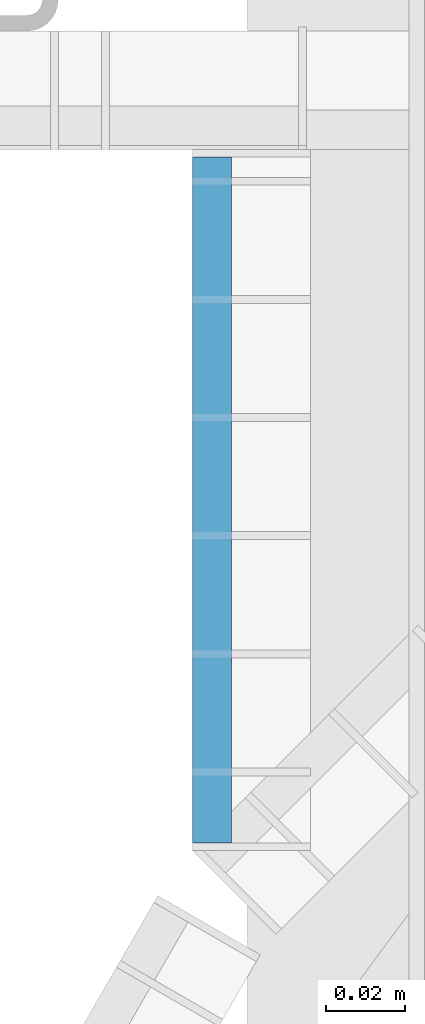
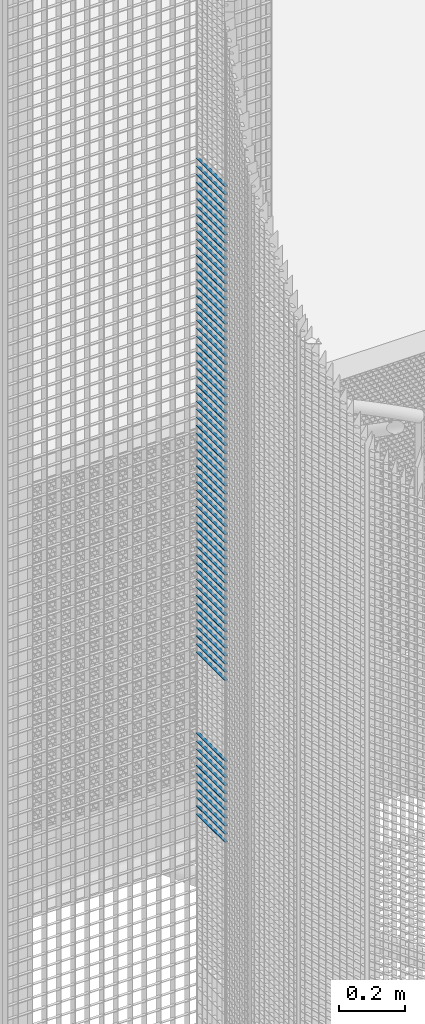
# One storey, part 175 of 1148: 73 beams, 1 element without a shape of its own.
"""IFC2X3 building model written with IfcOpenShell, lengths in millimetres."""

from ifc_helpers import new_model, si_unit, frame, origin_with_axes, origin_2d_with_axis, place, context, subcontext, project, spatial, rectangle, extrude, material, type_object, element, aggregate, save


model = new_model("IFC2X3")

# Units and contexts
model_context = context("Model", 3, precision=1e-05, world=origin_with_axes())
body_context = subcontext(model_context, "Body", "Model", "MODEL_VIEW")
ifc_project = project(units=[si_unit("LENGTHUNIT", "METRE", prefix="MILLI"), si_unit("AREAUNIT", "SQUARE_METRE"), si_unit("VOLUMEUNIT", "CUBIC_METRE"), si_unit("MASSUNIT", "GRAM", prefix="KILO"), si_unit("TIMEUNIT", "SECOND"), si_unit("PLANEANGLEUNIT", "RADIAN"), si_unit("SOLIDANGLEUNIT", "STERADIAN"), si_unit("THERMODYNAMICTEMPERATUREUNIT", "DEGREE_CELSIUS"), si_unit("LUMINOUSINTENSITYUNIT", "LUMEN")], contexts=[model_context])

# Site, building, storey
site_placement = place(None, origin_with_axes())
site = spatial("IfcSite", under=ifc_project, at=site_placement, Name="Undefined", CompositionType="ELEMENT")
building_placement = place(site_placement, origin_with_axes())
building = spatial("IfcBuilding", under=site, at=building_placement, Name="Undefined", CompositionType="ELEMENT")
storey_placement = place(building_placement, origin_with_axes())
storey = spatial("IfcBuildingStorey", under=building, at=storey_placement, Name="Undefined", CompositionType="ELEMENT", Elevation=0.0)

# Assembly, beams
assembly_placement = place(storey_placement, origin_with_axes())
assembly = element("IfcElementAssembly", 1, at=assembly_placement, inside=storey, Name="BORDURE", AssemblyPlace="NOTDEFINED", PredefinedType="NOTDEFINED")
ifc_material = material(Name="STEEL/S235JR")
beam_type = type_object("IfcBeamType", Name="PL2*10", PredefinedType="NOTDEFINED")
beam_1_placement = place(assembly_placement, frame((-884.882567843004, 867.997017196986, 8970.0), z_axis=(-1.0, 0.0, 0.0), x_axis=(0.0, -1.0, 0.0)))
beam_1 = element("IfcBeam", 2, at=beam_1_placement, type_object=beam_type, material=ifc_material, Name="ENTRETOISE", context=body_context, shape_type="SweptSolid", body=[
    extrude(rectangle(XDim=2.0, YDim=10.0, at=origin_2d_with_axis()), frame((174.109999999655, 0.0, 0.0), z_axis=(-1.0, 0.0, 0.0), x_axis=(0.0, -1.0, 0.0)), (0.0, 0.0, 1.0), 174.11),
])
beam_2_placement = place(assembly_placement, frame((-884.882567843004, 867.997017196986, 8940.0), z_axis=(-1.0, 0.0, 0.0), x_axis=(0.0, -1.0, 0.0)))
beam_2 = element("IfcBeam", 3, at=beam_2_placement, type_object=beam_type, material=ifc_material, Name="ENTRETOISE", context=body_context, shape_type="SweptSolid", body=[
    extrude(rectangle(XDim=2.0, YDim=10.0, at=origin_2d_with_axis()), frame((174.109999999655, 0.0, 0.0), z_axis=(-1.0, 0.0, 0.0), x_axis=(0.0, -1.0, 0.0)), (0.0, 0.0, 1.0), 174.11),
])
beam_3_placement = place(assembly_placement, frame((-884.882567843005, 867.997017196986, 8910.0), z_axis=(-1.0, 0.0, 0.0), x_axis=(0.0, -1.0, 0.0)))
beam_3 = element("IfcBeam", 4, at=beam_3_placement, type_object=beam_type, material=ifc_material, Name="ENTRETOISE", context=body_context, shape_type="SweptSolid", body=[
    extrude(rectangle(XDim=2.0, YDim=10.0, at=origin_2d_with_axis()), frame((174.109999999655, 0.0, 0.0), z_axis=(-1.0, 0.0, 0.0), x_axis=(0.0, -1.0, 0.0)), (0.0, 0.0, 1.0), 174.11),
])
beam_4_placement = place(assembly_placement, frame((-884.882567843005, 867.997017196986, 8880.0), z_axis=(-1.0, 0.0, 0.0), x_axis=(0.0, -1.0, 0.0)))
beam_4 = element("IfcBeam", 5, at=beam_4_placement, type_object=beam_type, material=ifc_material, Name="ENTRETOISE", context=body_context, shape_type="SweptSolid", body=[
    extrude(rectangle(XDim=2.0, YDim=10.0, at=origin_2d_with_axis()), frame((174.109999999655, 0.0, 0.0), z_axis=(-1.0, 0.0, 0.0), x_axis=(0.0, -1.0, 0.0)), (0.0, 0.0, 1.0), 174.11),
])
beam_5_placement = place(assembly_placement, frame((-884.882567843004, 867.997017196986, 8850.0), z_axis=(-1.0, 0.0, 0.0), x_axis=(0.0, -1.0, 0.0)))
beam_5 = element("IfcBeam", 6, at=beam_5_placement, type_object=beam_type, material=ifc_material, Name="ENTRETOISE", context=body_context, shape_type="SweptSolid", body=[
    extrude(rectangle(XDim=2.0, YDim=10.0, at=origin_2d_with_axis()), frame((174.109999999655, 0.0, 0.0), z_axis=(-1.0, 0.0, 0.0), x_axis=(0.0, -1.0, 0.0)), (0.0, 0.0, 1.0), 174.11),
])
beam_6_placement = place(assembly_placement, frame((-884.882567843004, 867.997017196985, 8820.0), z_axis=(-1.0, 0.0, 0.0), x_axis=(0.0, -1.0, 0.0)))
beam_6 = element("IfcBeam", 7, at=beam_6_placement, type_object=beam_type, material=ifc_material, Name="ENTRETOISE", context=body_context, shape_type="SweptSolid", body=[
    extrude(rectangle(XDim=2.0, YDim=10.0, at=origin_2d_with_axis()), frame((174.109999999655, 0.0, 0.0), z_axis=(-1.0, 0.0, 0.0), x_axis=(0.0, -1.0, 0.0)), (0.0, 0.0, 1.0), 174.11),
])
beam_7_placement = place(assembly_placement, frame((-884.882567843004, 867.997017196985, 8790.0), z_axis=(-1.0, 0.0, 0.0), x_axis=(0.0, -1.0, 0.0)))
beam_7 = element("IfcBeam", 8, at=beam_7_placement, type_object=beam_type, material=ifc_material, Name="ENTRETOISE", context=body_context, shape_type="SweptSolid", body=[
    extrude(rectangle(XDim=2.0, YDim=10.0, at=origin_2d_with_axis()), frame((174.109999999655, 0.0, 0.0), z_axis=(-1.0, 0.0, 0.0), x_axis=(0.0, -1.0, 0.0)), (0.0, 0.0, 1.0), 174.11),
])
beam_8_placement = place(assembly_placement, frame((-884.882567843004, 867.997017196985, 8760.0), z_axis=(-1.0, 0.0, 0.0), x_axis=(0.0, -1.0, 0.0)))
beam_8 = element("IfcBeam", 9, at=beam_8_placement, type_object=beam_type, material=ifc_material, Name="ENTRETOISE", context=body_context, shape_type="SweptSolid", body=[
    extrude(rectangle(XDim=2.0, YDim=10.0, at=origin_2d_with_axis()), frame((174.109999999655, 0.0, 0.0), z_axis=(-1.0, 0.0, 0.0), x_axis=(0.0, -1.0, 0.0)), (0.0, 0.0, 1.0), 174.11),
])
beam_9_placement = place(assembly_placement, frame((-884.882567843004, 867.997017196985, 8730.0), z_axis=(-1.0, 0.0, 0.0), x_axis=(0.0, -1.0, 0.0)))
beam_9 = element("IfcBeam", 10, at=beam_9_placement, type_object=beam_type, material=ifc_material, Name="ENTRETOISE", context=body_context, shape_type="SweptSolid", body=[
    extrude(rectangle(XDim=2.0, YDim=10.0, at=origin_2d_with_axis()), frame((174.109999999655, 0.0, 0.0), z_axis=(-1.0, 0.0, 0.0), x_axis=(0.0, -1.0, 0.0)), (0.0, 0.0, 1.0), 174.11),
])
beam_10_placement = place(assembly_placement, frame((-884.882567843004, 867.997017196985, 8700.0), z_axis=(-1.0, 0.0, 0.0), x_axis=(0.0, -1.0, 0.0)))
beam_10 = element("IfcBeam", 11, at=beam_10_placement, type_object=beam_type, material=ifc_material, Name="ENTRETOISE", context=body_context, shape_type="SweptSolid", body=[
    extrude(rectangle(XDim=2.0, YDim=10.0, at=origin_2d_with_axis()), frame((174.109999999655, 0.0, 0.0), z_axis=(-1.0, 0.0, 0.0), x_axis=(0.0, -1.0, 0.0)), (0.0, 0.0, 1.0), 174.11),
])
beam_11_placement = place(assembly_placement, frame((-884.882567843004, 867.997017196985, 8670.0), z_axis=(-1.0, 0.0, 0.0), x_axis=(0.0, -1.0, 0.0)))
beam_11 = element("IfcBeam", 12, at=beam_11_placement, type_object=beam_type, material=ifc_material, Name="ENTRETOISE", context=body_context, shape_type="SweptSolid", body=[
    extrude(rectangle(XDim=2.0, YDim=10.0, at=origin_2d_with_axis()), frame((174.109999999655, 0.0, 0.0), z_axis=(-1.0, 0.0, 0.0), x_axis=(0.0, -1.0, 0.0)), (0.0, 0.0, 1.0), 174.11),
])
beam_12_placement = place(assembly_placement, frame((-884.882567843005, 867.997017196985, 8640.0), z_axis=(-1.0, 0.0, 0.0), x_axis=(0.0, -1.0, 0.0)))
beam_12 = element("IfcBeam", 13, at=beam_12_placement, type_object=beam_type, material=ifc_material, Name="ENTRETOISE", context=body_context, shape_type="SweptSolid", body=[
    extrude(rectangle(XDim=2.0, YDim=10.0, at=origin_2d_with_axis()), frame((174.109999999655, 0.0, 0.0), z_axis=(-1.0, 0.0, 0.0), x_axis=(0.0, -1.0, 0.0)), (0.0, 0.0, 1.0), 174.11),
])
beam_13_placement = place(assembly_placement, frame((-884.882567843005, 867.997017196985, 8610.0), z_axis=(-1.0, 0.0, 0.0), x_axis=(0.0, -1.0, 0.0)))
beam_13 = element("IfcBeam", 14, at=beam_13_placement, type_object=beam_type, material=ifc_material, Name="ENTRETOISE", context=body_context, shape_type="SweptSolid", body=[
    extrude(rectangle(XDim=2.0, YDim=10.0, at=origin_2d_with_axis()), frame((174.109999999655, 0.0, 0.0), z_axis=(-1.0, 0.0, 0.0), x_axis=(0.0, -1.0, 0.0)), (0.0, 0.0, 1.0), 174.11),
])
beam_14_placement = place(assembly_placement, frame((-884.882567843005, 867.997017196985, 8580.0), z_axis=(-1.0, 0.0, 0.0), x_axis=(0.0, -1.0, 0.0)))
beam_14 = element("IfcBeam", 15, at=beam_14_placement, type_object=beam_type, material=ifc_material, Name="ENTRETOISE", context=body_context, shape_type="SweptSolid", body=[
    extrude(rectangle(XDim=2.0, YDim=10.0, at=origin_2d_with_axis()), frame((174.109999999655, 0.0, 0.0), z_axis=(-1.0, 0.0, 0.0), x_axis=(0.0, -1.0, 0.0)), (0.0, 0.0, 1.0), 174.11),
])
beam_15_placement = place(assembly_placement, frame((-884.882567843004, 867.997017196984, 8550.0), z_axis=(-1.0, 0.0, 0.0), x_axis=(0.0, -1.0, 0.0)))
beam_15 = element("IfcBeam", 16, at=beam_15_placement, type_object=beam_type, material=ifc_material, Name="ENTRETOISE", context=body_context, shape_type="SweptSolid", body=[
    extrude(rectangle(XDim=2.0, YDim=10.0, at=origin_2d_with_axis()), frame((174.109999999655, 0.0, 0.0), z_axis=(-1.0, 0.0, 0.0), x_axis=(0.0, -1.0, 0.0)), (0.0, 0.0, 1.0), 174.11),
])
beam_16_placement = place(assembly_placement, frame((-884.882567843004, 867.997017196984, 8520.0), z_axis=(-1.0, 0.0, 0.0), x_axis=(0.0, -1.0, 0.0)))
beam_16 = element("IfcBeam", 17, at=beam_16_placement, type_object=beam_type, material=ifc_material, Name="ENTRETOISE", context=body_context, shape_type="SweptSolid", body=[
    extrude(rectangle(XDim=2.0, YDim=10.0, at=origin_2d_with_axis()), frame((174.109999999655, 0.0, 0.0), z_axis=(-1.0, 0.0, 0.0), x_axis=(0.0, -1.0, 0.0)), (0.0, 0.0, 1.0), 174.11),
])
beam_17_placement = place(assembly_placement, frame((-884.882567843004, 867.997017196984, 8490.0), z_axis=(-1.0, 0.0, 0.0), x_axis=(0.0, -1.0, 0.0)))
beam_17 = element("IfcBeam", 18, at=beam_17_placement, type_object=beam_type, material=ifc_material, Name="ENTRETOISE", context=body_context, shape_type="SweptSolid", body=[
    extrude(rectangle(XDim=2.0, YDim=10.0, at=origin_2d_with_axis()), frame((174.109999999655, 0.0, 0.0), z_axis=(-1.0, 0.0, 0.0), x_axis=(0.0, -1.0, 0.0)), (0.0, 0.0, 1.0), 174.11),
])
beam_18_placement = place(assembly_placement, frame((-884.882567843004, 867.997017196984, 8460.0), z_axis=(-1.0, 0.0, 0.0), x_axis=(0.0, -1.0, 0.0)))
beam_18 = element("IfcBeam", 19, at=beam_18_placement, type_object=beam_type, material=ifc_material, Name="ENTRETOISE", context=body_context, shape_type="SweptSolid", body=[
    extrude(rectangle(XDim=2.0, YDim=10.0, at=origin_2d_with_axis()), frame((174.109999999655, 0.0, 0.0), z_axis=(-1.0, 0.0, 0.0), x_axis=(0.0, -1.0, 0.0)), (0.0, 0.0, 1.0), 174.11),
])
beam_19_placement = place(assembly_placement, frame((-884.882567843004, 867.997017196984, 8430.0), z_axis=(-1.0, 0.0, 0.0), x_axis=(0.0, -1.0, 0.0)))
beam_19 = element("IfcBeam", 20, at=beam_19_placement, type_object=beam_type, material=ifc_material, Name="ENTRETOISE", context=body_context, shape_type="SweptSolid", body=[
    extrude(rectangle(XDim=2.0, YDim=10.0, at=origin_2d_with_axis()), frame((174.109999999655, 0.0, 0.0), z_axis=(-1.0, 0.0, 0.0), x_axis=(0.0, -1.0, 0.0)), (0.0, 0.0, 1.0), 174.11),
])
beam_20_placement = place(assembly_placement, frame((-884.882567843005, 867.997017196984, 8400.0), z_axis=(-1.0, 0.0, 0.0), x_axis=(0.0, -1.0, 0.0)))
beam_20 = element("IfcBeam", 21, at=beam_20_placement, type_object=beam_type, material=ifc_material, Name="ENTRETOISE", context=body_context, shape_type="SweptSolid", body=[
    extrude(rectangle(XDim=2.0, YDim=10.0, at=origin_2d_with_axis()), frame((174.109999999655, 0.0, 0.0), z_axis=(-1.0, 0.0, 0.0), x_axis=(0.0, -1.0, 0.0)), (0.0, 0.0, 1.0), 174.11),
])
beam_21_placement = place(assembly_placement, frame((-884.882567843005, 867.997017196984, 8370.0), z_axis=(-1.0, 0.0, 0.0), x_axis=(0.0, -1.0, 0.0)))
beam_21 = element("IfcBeam", 22, at=beam_21_placement, type_object=beam_type, material=ifc_material, Name="ENTRETOISE", context=body_context, shape_type="SweptSolid", body=[
    extrude(rectangle(XDim=2.0, YDim=10.0, at=origin_2d_with_axis()), frame((174.109999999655, 0.0, 0.0), z_axis=(-1.0, 0.0, 0.0), x_axis=(0.0, -1.0, 0.0)), (0.0, 0.0, 1.0), 174.11),
])
beam_22_placement = place(assembly_placement, frame((-884.882567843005, 867.997017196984, 8340.0), z_axis=(-1.0, 0.0, 0.0), x_axis=(0.0, -1.0, 0.0)))
beam_22 = element("IfcBeam", 23, at=beam_22_placement, type_object=beam_type, material=ifc_material, Name="ENTRETOISE", context=body_context, shape_type="SweptSolid", body=[
    extrude(rectangle(XDim=2.0, YDim=10.0, at=origin_2d_with_axis()), frame((174.109999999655, 0.0, 0.0), z_axis=(-1.0, 0.0, 0.0), x_axis=(0.0, -1.0, 0.0)), (0.0, 0.0, 1.0), 174.11),
])
beam_23_placement = place(assembly_placement, frame((-884.882567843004, 867.997017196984, 8310.0), z_axis=(-1.0, 0.0, 0.0), x_axis=(0.0, -1.0, 0.0)))
beam_23 = element("IfcBeam", 24, at=beam_23_placement, type_object=beam_type, material=ifc_material, Name="ENTRETOISE", context=body_context, shape_type="SweptSolid", body=[
    extrude(rectangle(XDim=2.0, YDim=10.0, at=origin_2d_with_axis()), frame((174.109999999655, 0.0, 0.0), z_axis=(-1.0, 0.0, 0.0), x_axis=(0.0, -1.0, 0.0)), (0.0, 0.0, 1.0), 174.11),
])
beam_24_placement = place(assembly_placement, frame((-884.882567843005, 867.997017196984, 8280.0), z_axis=(-1.0, 0.0, 0.0), x_axis=(0.0, -1.0, 0.0)))
beam_24 = element("IfcBeam", 25, at=beam_24_placement, type_object=beam_type, material=ifc_material, Name="ENTRETOISE", context=body_context, shape_type="SweptSolid", body=[
    extrude(rectangle(XDim=2.0, YDim=10.0, at=origin_2d_with_axis()), frame((174.109999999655, 0.0, 0.0), z_axis=(-1.0, 0.0, 0.0), x_axis=(0.0, -1.0, 0.0)), (0.0, 0.0, 1.0), 174.11),
])
beam_25_placement = place(assembly_placement, frame((-884.882567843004, 867.997017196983, 8250.0), z_axis=(-1.0, 0.0, 0.0), x_axis=(0.0, -1.0, 0.0)))
beam_25 = element("IfcBeam", 26, at=beam_25_placement, type_object=beam_type, material=ifc_material, Name="ENTRETOISE", context=body_context, shape_type="SweptSolid", body=[
    extrude(rectangle(XDim=2.0, YDim=10.0, at=origin_2d_with_axis()), frame((174.109999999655, 0.0, 0.0), z_axis=(-1.0, 0.0, 0.0), x_axis=(0.0, -1.0, 0.0)), (0.0, 0.0, 1.0), 174.11),
])
beam_26_placement = place(assembly_placement, frame((-884.882567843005, 867.997017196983, 8220.0), z_axis=(-1.0, 0.0, 0.0), x_axis=(0.0, -1.0, 0.0)))
beam_26 = element("IfcBeam", 27, at=beam_26_placement, type_object=beam_type, material=ifc_material, Name="ENTRETOISE", context=body_context, shape_type="SweptSolid", body=[
    extrude(rectangle(XDim=2.0, YDim=10.0, at=origin_2d_with_axis()), frame((174.109999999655, 0.0, 0.0), z_axis=(-1.0, 0.0, 0.0), x_axis=(0.0, -1.0, 0.0)), (0.0, 0.0, 1.0), 174.11),
])
beam_27_placement = place(assembly_placement, frame((-884.882567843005, 867.997017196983, 8190.0), z_axis=(-1.0, 0.0, 0.0), x_axis=(0.0, -1.0, 0.0)))
beam_27 = element("IfcBeam", 28, at=beam_27_placement, type_object=beam_type, material=ifc_material, Name="ENTRETOISE", context=body_context, shape_type="SweptSolid", body=[
    extrude(rectangle(XDim=2.0, YDim=10.0, at=origin_2d_with_axis()), frame((174.109999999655, 0.0, 0.0), z_axis=(-1.0, 0.0, 0.0), x_axis=(0.0, -1.0, 0.0)), (0.0, 0.0, 1.0), 174.11),
])
beam_28_placement = place(assembly_placement, frame((-884.882567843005, 867.997017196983, 8160.0), z_axis=(-1.0, 0.0, 0.0), x_axis=(0.0, -1.0, 0.0)))
beam_28 = element("IfcBeam", 29, at=beam_28_placement, type_object=beam_type, material=ifc_material, Name="ENTRETOISE", context=body_context, shape_type="SweptSolid", body=[
    extrude(rectangle(XDim=2.0, YDim=10.0, at=origin_2d_with_axis()), frame((174.109999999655, 0.0, 0.0), z_axis=(-1.0, 0.0, 0.0), x_axis=(0.0, -1.0, 0.0)), (0.0, 0.0, 1.0), 174.11),
])
beam_29_placement = place(assembly_placement, frame((-884.882567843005, 867.997017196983, 8130.0), z_axis=(-1.0, 0.0, 0.0), x_axis=(0.0, -1.0, 0.0)))
beam_29 = element("IfcBeam", 30, at=beam_29_placement, type_object=beam_type, material=ifc_material, Name="ENTRETOISE", context=body_context, shape_type="SweptSolid", body=[
    extrude(rectangle(XDim=2.0, YDim=10.0, at=origin_2d_with_axis()), frame((174.109999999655, 0.0, 0.0), z_axis=(-1.0, 0.0, 0.0), x_axis=(0.0, -1.0, 0.0)), (0.0, 0.0, 1.0), 174.11),
])
beam_30_placement = place(assembly_placement, frame((-884.882567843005, 867.997017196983, 8100.0), z_axis=(-1.0, 0.0, 0.0), x_axis=(0.0, -1.0, 0.0)))
beam_30 = element("IfcBeam", 31, at=beam_30_placement, type_object=beam_type, material=ifc_material, Name="ENTRETOISE", context=body_context, shape_type="SweptSolid", body=[
    extrude(rectangle(XDim=2.0, YDim=10.0, at=origin_2d_with_axis()), frame((174.109999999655, 0.0, 0.0), z_axis=(-1.0, 0.0, 0.0), x_axis=(0.0, -1.0, 0.0)), (0.0, 0.0, 1.0), 174.11),
])
beam_31_placement = place(assembly_placement, frame((-884.882567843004, 867.997017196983, 8070.0), z_axis=(-1.0, 0.0, 0.0), x_axis=(0.0, -1.0, 0.0)))
beam_31 = element("IfcBeam", 32, at=beam_31_placement, type_object=beam_type, material=ifc_material, Name="ENTRETOISE", context=body_context, shape_type="SweptSolid", body=[
    extrude(rectangle(XDim=2.0, YDim=10.0, at=origin_2d_with_axis()), frame((174.109999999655, 0.0, 0.0), z_axis=(-1.0, 0.0, 0.0), x_axis=(0.0, -1.0, 0.0)), (0.0, 0.0, 1.0), 174.11),
])
beam_32_placement = place(assembly_placement, frame((-884.882567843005, 867.997017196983, 8040.0), z_axis=(-1.0, 0.0, 0.0), x_axis=(0.0, -1.0, 0.0)))
beam_32 = element("IfcBeam", 33, at=beam_32_placement, type_object=beam_type, material=ifc_material, Name="ENTRETOISE", context=body_context, shape_type="SweptSolid", body=[
    extrude(rectangle(XDim=2.0, YDim=10.0, at=origin_2d_with_axis()), frame((174.109999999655, 0.0, 0.0), z_axis=(-1.0, 0.0, 0.0), x_axis=(0.0, -1.0, 0.0)), (0.0, 0.0, 1.0), 174.11),
])
beam_33_placement = place(assembly_placement, frame((-884.882567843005, 867.997017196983, 8010.0), z_axis=(-1.0, 0.0, 0.0), x_axis=(0.0, -1.0, 0.0)))
beam_33 = element("IfcBeam", 34, at=beam_33_placement, type_object=beam_type, material=ifc_material, Name="ENTRETOISE", context=body_context, shape_type="SweptSolid", body=[
    extrude(rectangle(XDim=2.0, YDim=10.0, at=origin_2d_with_axis()), frame((174.109999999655, 0.0, 0.0), z_axis=(-1.0, 0.0, 0.0), x_axis=(0.0, -1.0, 0.0)), (0.0, 0.0, 1.0), 174.11),
])
beam_34_placement = place(assembly_placement, frame((-884.882567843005, 867.997017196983, 7980.0), z_axis=(-1.0, 0.0, 0.0), x_axis=(0.0, -1.0, 0.0)))
beam_34 = element("IfcBeam", 35, at=beam_34_placement, type_object=beam_type, material=ifc_material, Name="ENTRETOISE", context=body_context, shape_type="SweptSolid", body=[
    extrude(rectangle(XDim=2.0, YDim=10.0, at=origin_2d_with_axis()), frame((174.109999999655, 0.0, 0.0), z_axis=(-1.0, 0.0, 0.0), x_axis=(0.0, -1.0, 0.0)), (0.0, 0.0, 1.0), 174.11),
])
beam_35_placement = place(assembly_placement, frame((-884.882567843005, 867.997017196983, 7950.0), z_axis=(-1.0, 0.0, 0.0), x_axis=(0.0, -1.0, 0.0)))
beam_35 = element("IfcBeam", 36, at=beam_35_placement, type_object=beam_type, material=ifc_material, Name="ENTRETOISE", context=body_context, shape_type="SweptSolid", body=[
    extrude(rectangle(XDim=2.0, YDim=10.0, at=origin_2d_with_axis()), frame((174.109999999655, 0.0, 0.0), z_axis=(-1.0, 0.0, 0.0), x_axis=(0.0, -1.0, 0.0)), (0.0, 0.0, 1.0), 174.11),
])
beam_36_placement = place(assembly_placement, frame((-884.882567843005, 867.997017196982, 7920.0), z_axis=(-1.0, 0.0, 0.0), x_axis=(0.0, -1.0, 0.0)))
beam_36 = element("IfcBeam", 37, at=beam_36_placement, type_object=beam_type, material=ifc_material, Name="ENTRETOISE", context=body_context, shape_type="SweptSolid", body=[
    extrude(rectangle(XDim=2.0, YDim=10.0, at=origin_2d_with_axis()), frame((174.109999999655, 0.0, 0.0), z_axis=(-1.0, 0.0, 0.0), x_axis=(0.0, -1.0, 0.0)), (0.0, 0.0, 1.0), 174.11),
])
beam_37_placement = place(assembly_placement, frame((-884.882567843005, 867.997017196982, 7890.0), z_axis=(-1.0, 0.0, 0.0), x_axis=(0.0, -1.0, 0.0)))
beam_37 = element("IfcBeam", 38, at=beam_37_placement, type_object=beam_type, material=ifc_material, Name="ENTRETOISE", context=body_context, shape_type="SweptSolid", body=[
    extrude(rectangle(XDim=2.0, YDim=10.0, at=origin_2d_with_axis()), frame((174.109999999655, 0.0, 0.0), z_axis=(-1.0, 0.0, 0.0), x_axis=(0.0, -1.0, 0.0)), (0.0, 0.0, 1.0), 174.11),
])
beam_38_placement = place(assembly_placement, frame((-884.882567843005, 867.997017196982, 7860.0), z_axis=(-1.0, 0.0, 0.0), x_axis=(0.0, -1.0, 0.0)))
beam_38 = element("IfcBeam", 39, at=beam_38_placement, type_object=beam_type, material=ifc_material, Name="ENTRETOISE", context=body_context, shape_type="SweptSolid", body=[
    extrude(rectangle(XDim=2.0, YDim=10.0, at=origin_2d_with_axis()), frame((174.109999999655, 0.0, 0.0), z_axis=(-1.0, 0.0, 0.0), x_axis=(0.0, -1.0, 0.0)), (0.0, 0.0, 1.0), 174.11),
])
beam_39_placement = place(assembly_placement, frame((-884.882567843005, 867.997017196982, 7830.0), z_axis=(-1.0, 0.0, 0.0), x_axis=(0.0, -1.0, 0.0)))
beam_39 = element("IfcBeam", 40, at=beam_39_placement, type_object=beam_type, material=ifc_material, Name="ENTRETOISE", context=body_context, shape_type="SweptSolid", body=[
    extrude(rectangle(XDim=2.0, YDim=10.0, at=origin_2d_with_axis()), frame((174.109999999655, 0.0, 0.0), z_axis=(-1.0, 0.0, 0.0), x_axis=(0.0, -1.0, 0.0)), (0.0, 0.0, 1.0), 174.11),
])
beam_40_placement = place(assembly_placement, frame((-884.882567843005, 867.997017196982, 7800.0), z_axis=(-1.0, 0.0, 0.0), x_axis=(0.0, -1.0, 0.0)))
beam_40 = element("IfcBeam", 41, at=beam_40_placement, type_object=beam_type, material=ifc_material, Name="ENTRETOISE", context=body_context, shape_type="SweptSolid", body=[
    extrude(rectangle(XDim=2.0, YDim=10.0, at=origin_2d_with_axis()), frame((174.109999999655, 0.0, 0.0), z_axis=(-1.0, 0.0, 0.0), x_axis=(0.0, -1.0, 0.0)), (0.0, 0.0, 1.0), 174.11),
])
beam_41_placement = place(assembly_placement, frame((-884.882567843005, 867.997017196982, 7770.0), z_axis=(-1.0, 0.0, 0.0), x_axis=(0.0, -1.0, 0.0)))
beam_41 = element("IfcBeam", 42, at=beam_41_placement, type_object=beam_type, material=ifc_material, Name="ENTRETOISE", context=body_context, shape_type="SweptSolid", body=[
    extrude(rectangle(XDim=2.0, YDim=10.0, at=origin_2d_with_axis()), frame((174.109999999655, 0.0, 0.0), z_axis=(-1.0, 0.0, 0.0), x_axis=(0.0, -1.0, 0.0)), (0.0, 0.0, 1.0), 174.11),
])
beam_42_placement = place(assembly_placement, frame((-884.882567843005, 867.997017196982, 7740.0), z_axis=(-1.0, 0.0, 0.0), x_axis=(0.0, -1.0, 0.0)))
beam_42 = element("IfcBeam", 43, at=beam_42_placement, type_object=beam_type, material=ifc_material, Name="ENTRETOISE", context=body_context, shape_type="SweptSolid", body=[
    extrude(rectangle(XDim=2.0, YDim=10.0, at=origin_2d_with_axis()), frame((174.109999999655, 0.0, 0.0), z_axis=(-1.0, 0.0, 0.0), x_axis=(0.0, -1.0, 0.0)), (0.0, 0.0, 1.0), 174.11),
])
beam_43_placement = place(assembly_placement, frame((-884.882567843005, 867.997017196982, 7710.0), z_axis=(-1.0, 0.0, 0.0), x_axis=(0.0, -1.0, 0.0)))
beam_43 = element("IfcBeam", 44, at=beam_43_placement, type_object=beam_type, material=ifc_material, Name="ENTRETOISE", context=body_context, shape_type="SweptSolid", body=[
    extrude(rectangle(XDim=2.0, YDim=10.0, at=origin_2d_with_axis()), frame((174.109999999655, 0.0, 0.0), z_axis=(-1.0, 0.0, 0.0), x_axis=(0.0, -1.0, 0.0)), (0.0, 0.0, 1.0), 174.11),
])
beam_44_placement = place(assembly_placement, frame((-884.882567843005, 867.997017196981, 7680.0), z_axis=(-1.0, 0.0, 0.0), x_axis=(0.0, -1.0, 0.0)))
beam_44 = element("IfcBeam", 45, at=beam_44_placement, type_object=beam_type, material=ifc_material, Name="ENTRETOISE", context=body_context, shape_type="SweptSolid", body=[
    extrude(rectangle(XDim=2.0, YDim=10.0, at=origin_2d_with_axis()), frame((174.109999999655, 0.0, 0.0), z_axis=(-1.0, 0.0, 0.0), x_axis=(0.0, -1.0, 0.0)), (0.0, 0.0, 1.0), 174.11),
])
beam_45_placement = place(assembly_placement, frame((-884.882567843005, 867.997017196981, 7650.0), z_axis=(-1.0, 0.0, 0.0), x_axis=(0.0, -1.0, 0.0)))
beam_45 = element("IfcBeam", 46, at=beam_45_placement, type_object=beam_type, material=ifc_material, Name="ENTRETOISE", context=body_context, shape_type="SweptSolid", body=[
    extrude(rectangle(XDim=2.0, YDim=10.0, at=origin_2d_with_axis()), frame((174.109999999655, 0.0, 0.0), z_axis=(-1.0, 0.0, 0.0), x_axis=(0.0, -1.0, 0.0)), (0.0, 0.0, 1.0), 174.11),
])
beam_46_placement = place(assembly_placement, frame((-884.882567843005, 867.997017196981, 7620.0), z_axis=(-1.0, 0.0, 0.0), x_axis=(0.0, -1.0, 0.0)))
beam_46 = element("IfcBeam", 47, at=beam_46_placement, type_object=beam_type, material=ifc_material, Name="ENTRETOISE", context=body_context, shape_type="SweptSolid", body=[
    extrude(rectangle(XDim=2.0, YDim=10.0, at=origin_2d_with_axis()), frame((174.109999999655, 0.0, 0.0), z_axis=(-1.0, 0.0, 0.0), x_axis=(0.0, -1.0, 0.0)), (0.0, 0.0, 1.0), 174.11),
])
beam_47_placement = place(assembly_placement, frame((-884.882567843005, 867.997017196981, 7590.0), z_axis=(-1.0, 0.0, 0.0), x_axis=(0.0, -1.0, 0.0)))
beam_47 = element("IfcBeam", 48, at=beam_47_placement, type_object=beam_type, material=ifc_material, Name="ENTRETOISE", context=body_context, shape_type="SweptSolid", body=[
    extrude(rectangle(XDim=2.0, YDim=10.0, at=origin_2d_with_axis()), frame((174.109999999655, 0.0, 0.0), z_axis=(-1.0, 0.0, 0.0), x_axis=(0.0, -1.0, 0.0)), (0.0, 0.0, 1.0), 174.11),
])
beam_48_placement = place(assembly_placement, frame((-884.882567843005, 867.997017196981, 7560.0), z_axis=(-1.0, 0.0, 0.0), x_axis=(0.0, -1.0, 0.0)))
beam_48 = element("IfcBeam", 49, at=beam_48_placement, type_object=beam_type, material=ifc_material, Name="ENTRETOISE", context=body_context, shape_type="SweptSolid", body=[
    extrude(rectangle(XDim=2.0, YDim=10.0, at=origin_2d_with_axis()), frame((174.109999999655, 0.0, 0.0), z_axis=(-1.0, 0.0, 0.0), x_axis=(0.0, -1.0, 0.0)), (0.0, 0.0, 1.0), 174.11),
])
beam_49_placement = place(assembly_placement, frame((-884.882567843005, 867.997017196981, 7530.0), z_axis=(-1.0, 0.0, 0.0), x_axis=(0.0, -1.0, 0.0)))
beam_49 = element("IfcBeam", 50, at=beam_49_placement, type_object=beam_type, material=ifc_material, Name="ENTRETOISE", context=body_context, shape_type="SweptSolid", body=[
    extrude(rectangle(XDim=2.0, YDim=10.0, at=origin_2d_with_axis()), frame((174.109999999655, 0.0, 0.0), z_axis=(-1.0, 0.0, 0.0), x_axis=(0.0, -1.0, 0.0)), (0.0, 0.0, 1.0), 174.11),
])
beam_50_placement = place(assembly_placement, frame((-884.882567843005, 867.997017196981, 7500.0), z_axis=(-1.0, 0.0, 0.0), x_axis=(0.0, -1.0, 0.0)))
beam_50 = element("IfcBeam", 51, at=beam_50_placement, type_object=beam_type, material=ifc_material, Name="ENTRETOISE", context=body_context, shape_type="SweptSolid", body=[
    extrude(rectangle(XDim=2.0, YDim=10.0, at=origin_2d_with_axis()), frame((174.109999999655, 0.0, 0.0), z_axis=(-1.0, 0.0, 0.0), x_axis=(0.0, -1.0, 0.0)), (0.0, 0.0, 1.0), 174.11),
])
beam_51_placement = place(assembly_placement, frame((-884.882567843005, 867.997017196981, 7470.0), z_axis=(-1.0, 0.0, 0.0), x_axis=(0.0, -1.0, 0.0)))
beam_51 = element("IfcBeam", 52, at=beam_51_placement, type_object=beam_type, material=ifc_material, Name="ENTRETOISE", context=body_context, shape_type="SweptSolid", body=[
    extrude(rectangle(XDim=2.0, YDim=10.0, at=origin_2d_with_axis()), frame((174.109999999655, 0.0, 0.0), z_axis=(-1.0, 0.0, 0.0), x_axis=(0.0, -1.0, 0.0)), (0.0, 0.0, 1.0), 174.11),
])
beam_52_placement = place(assembly_placement, frame((-884.882567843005, 867.997017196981, 7440.0), z_axis=(-1.0, 0.0, 0.0), x_axis=(0.0, -1.0, 0.0)))
beam_52 = element("IfcBeam", 53, at=beam_52_placement, type_object=beam_type, material=ifc_material, Name="ENTRETOISE", context=body_context, shape_type="SweptSolid", body=[
    extrude(rectangle(XDim=2.0, YDim=10.0, at=origin_2d_with_axis()), frame((174.109999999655, 0.0, 0.0), z_axis=(-1.0, 0.0, 0.0), x_axis=(0.0, -1.0, 0.0)), (0.0, 0.0, 1.0), 174.11),
])
beam_53_placement = place(assembly_placement, frame((-884.882567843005, 867.997017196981, 7410.0), z_axis=(-1.0, 0.0, 0.0), x_axis=(0.0, -1.0, 0.0)))
beam_53 = element("IfcBeam", 54, at=beam_53_placement, type_object=beam_type, material=ifc_material, Name="ENTRETOISE", context=body_context, shape_type="SweptSolid", body=[
    extrude(rectangle(XDim=2.0, YDim=10.0, at=origin_2d_with_axis()), frame((174.109999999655, 0.0, 0.0), z_axis=(-1.0, 0.0, 0.0), x_axis=(0.0, -1.0, 0.0)), (0.0, 0.0, 1.0), 174.11),
])
beam_54_placement = place(assembly_placement, frame((-884.882567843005, 867.99701719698, 7380.0), z_axis=(-1.0, 0.0, 0.0), x_axis=(0.0, -1.0, 0.0)))
beam_54 = element("IfcBeam", 55, at=beam_54_placement, type_object=beam_type, material=ifc_material, Name="ENTRETOISE", context=body_context, shape_type="SweptSolid", body=[
    extrude(rectangle(XDim=2.0, YDim=10.0, at=origin_2d_with_axis()), frame((174.109999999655, 0.0, 0.0), z_axis=(-1.0, 0.0, 0.0), x_axis=(0.0, -1.0, 0.0)), (0.0, 0.0, 1.0), 174.11),
])
beam_55_placement = place(assembly_placement, frame((-884.882567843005, 867.99701719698, 7350.0), z_axis=(-1.0, 0.0, 0.0), x_axis=(0.0, -1.0, 0.0)))
beam_55 = element("IfcBeam", 56, at=beam_55_placement, type_object=beam_type, material=ifc_material, Name="ENTRETOISE", context=body_context, shape_type="SweptSolid", body=[
    extrude(rectangle(XDim=2.0, YDim=10.0, at=origin_2d_with_axis()), frame((174.109999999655, 0.0, 0.0), z_axis=(-1.0, 0.0, 0.0), x_axis=(0.0, -1.0, 0.0)), (0.0, 0.0, 1.0), 174.11),
])
beam_56_placement = place(assembly_placement, frame((-884.882567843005, 867.99701719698, 7320.0), z_axis=(-1.0, 0.0, 0.0), x_axis=(0.0, -1.0, 0.0)))
beam_56 = element("IfcBeam", 57, at=beam_56_placement, type_object=beam_type, material=ifc_material, Name="ENTRETOISE", context=body_context, shape_type="SweptSolid", body=[
    extrude(rectangle(XDim=2.0, YDim=10.0, at=origin_2d_with_axis()), frame((174.109999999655, 0.0, 0.0), z_axis=(-1.0, 0.0, 0.0), x_axis=(0.0, -1.0, 0.0)), (0.0, 0.0, 1.0), 174.11),
])
beam_57_placement = place(assembly_placement, frame((-884.882567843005, 867.99701719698, 7290.0), z_axis=(-1.0, 0.0, 0.0), x_axis=(0.0, -1.0, 0.0)))
beam_57 = element("IfcBeam", 58, at=beam_57_placement, type_object=beam_type, material=ifc_material, Name="ENTRETOISE", context=body_context, shape_type="SweptSolid", body=[
    extrude(rectangle(XDim=2.0, YDim=10.0, at=origin_2d_with_axis()), frame((174.109999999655, 0.0, 0.0), z_axis=(-1.0, 0.0, 0.0), x_axis=(0.0, -1.0, 0.0)), (0.0, 0.0, 1.0), 174.11),
])
beam_58_placement = place(assembly_placement, frame((-884.882567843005, 867.99701719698, 7260.0), z_axis=(-1.0, 0.0, 0.0), x_axis=(0.0, -1.0, 0.0)))
beam_58 = element("IfcBeam", 59, at=beam_58_placement, type_object=beam_type, material=ifc_material, Name="ENTRETOISE", context=body_context, shape_type="SweptSolid", body=[
    extrude(rectangle(XDim=2.0, YDim=10.0, at=origin_2d_with_axis()), frame((174.109999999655, 0.0, 0.0), z_axis=(-1.0, 0.0, 0.0), x_axis=(0.0, -1.0, 0.0)), (0.0, 0.0, 1.0), 174.11),
])
beam_59_placement = place(assembly_placement, frame((-884.882567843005, 867.99701719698, 7230.0), z_axis=(-1.0, 0.0, 0.0), x_axis=(0.0, -1.0, 0.0)))
beam_59 = element("IfcBeam", 60, at=beam_59_placement, type_object=beam_type, material=ifc_material, Name="ENTRETOISE", context=body_context, shape_type="SweptSolid", body=[
    extrude(rectangle(XDim=2.0, YDim=10.0, at=origin_2d_with_axis()), frame((174.109999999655, 0.0, 0.0), z_axis=(-1.0, 0.0, 0.0), x_axis=(0.0, -1.0, 0.0)), (0.0, 0.0, 1.0), 174.11),
])
beam_60_placement = place(assembly_placement, frame((-884.882567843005, 867.99701719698, 7200.0), z_axis=(-1.0, 0.0, 0.0), x_axis=(0.0, -1.0, 0.0)))
beam_60 = element("IfcBeam", 61, at=beam_60_placement, type_object=beam_type, material=ifc_material, Name="ENTRETOISE", context=body_context, shape_type="SweptSolid", body=[
    extrude(rectangle(XDim=2.0, YDim=10.0, at=origin_2d_with_axis()), frame((174.109999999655, 0.0, 0.0), z_axis=(-1.0, 0.0, 0.0), x_axis=(0.0, -1.0, 0.0)), (0.0, 0.0, 1.0), 174.11),
])
beam_61_placement = place(assembly_placement, frame((-884.882567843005, 867.99701719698, 7170.0), z_axis=(-1.0, 0.0, 0.0), x_axis=(0.0, -1.0, 0.0)))
beam_61 = element("IfcBeam", 62, at=beam_61_placement, type_object=beam_type, material=ifc_material, Name="ENTRETOISE", context=body_context, shape_type="SweptSolid", body=[
    extrude(rectangle(XDim=2.0, YDim=10.0, at=origin_2d_with_axis()), frame((174.109999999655, 0.0, 0.0), z_axis=(-1.0, 0.0, 0.0), x_axis=(0.0, -1.0, 0.0)), (0.0, 0.0, 1.0), 174.11),
])
beam_62_placement = place(assembly_placement, frame((-884.882567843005, 867.99701719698, 7140.0), z_axis=(-1.0, 0.0, 0.0), x_axis=(0.0, -1.0, 0.0)))
beam_62 = element("IfcBeam", 63, at=beam_62_placement, type_object=beam_type, material=ifc_material, Name="ENTRETOISE", context=body_context, shape_type="SweptSolid", body=[
    extrude(rectangle(XDim=2.0, YDim=10.0, at=origin_2d_with_axis()), frame((174.109999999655, 0.0, 0.0), z_axis=(-1.0, 0.0, 0.0), x_axis=(0.0, -1.0, 0.0)), (0.0, 0.0, 1.0), 174.11),
])
beam_63_placement = place(assembly_placement, frame((-884.882567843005, 867.997017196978, 6720.0), z_axis=(-1.0, 0.0, 0.0), x_axis=(0.0, -1.0, 0.0)))
beam_63 = element("IfcBeam", 64, at=beam_63_placement, type_object=beam_type, material=ifc_material, Name="ENTRETOISE", context=body_context, shape_type="SweptSolid", body=[
    extrude(rectangle(XDim=2.0, YDim=10.0, at=origin_2d_with_axis()), frame((174.109999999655, 0.0, 0.0), z_axis=(-1.0, 0.0, 0.0), x_axis=(0.0, -1.0, 0.0)), (0.0, 0.0, 1.0), 174.11),
])
beam_64_placement = place(assembly_placement, frame((-884.882567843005, 867.997017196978, 6690.0), z_axis=(-1.0, 0.0, 0.0), x_axis=(0.0, -1.0, 0.0)))
beam_64 = element("IfcBeam", 65, at=beam_64_placement, type_object=beam_type, material=ifc_material, Name="ENTRETOISE", context=body_context, shape_type="SweptSolid", body=[
    extrude(rectangle(XDim=2.0, YDim=10.0, at=origin_2d_with_axis()), frame((174.109999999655, 0.0, 0.0), z_axis=(-1.0, 0.0, 0.0), x_axis=(0.0, -1.0, 0.0)), (0.0, 0.0, 1.0), 174.11),
])
beam_65_placement = place(assembly_placement, frame((-884.882567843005, 867.997017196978, 6750.0), z_axis=(-1.0, 0.0, 0.0), x_axis=(0.0, -1.0, 0.0)))
beam_65 = element("IfcBeam", 66, at=beam_65_placement, type_object=beam_type, material=ifc_material, Name="ENTRETOISE", context=body_context, shape_type="SweptSolid", body=[
    extrude(rectangle(XDim=2.0, YDim=10.0, at=origin_2d_with_axis()), frame((174.109999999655, 0.0, 0.0), z_axis=(-1.0, 0.0, 0.0), x_axis=(0.0, -1.0, 0.0)), (0.0, 0.0, 1.0), 174.11),
])
beam_66_placement = place(assembly_placement, frame((-884.882567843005, 867.997017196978, 6660.0), z_axis=(-1.0, 0.0, 0.0), x_axis=(0.0, -1.0, 0.0)))
beam_66 = element("IfcBeam", 67, at=beam_66_placement, type_object=beam_type, material=ifc_material, Name="ENTRETOISE", context=body_context, shape_type="SweptSolid", body=[
    extrude(rectangle(XDim=2.0, YDim=10.0, at=origin_2d_with_axis()), frame((174.109999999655, 0.0, 0.0), z_axis=(-1.0, 0.0, 0.0), x_axis=(0.0, -1.0, 0.0)), (0.0, 0.0, 1.0), 174.11),
])
beam_67_placement = place(assembly_placement, frame((-884.882567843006, 867.997017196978, 6630.0), z_axis=(-1.0, 0.0, 0.0), x_axis=(0.0, -1.0, 0.0)))
beam_67 = element("IfcBeam", 68, at=beam_67_placement, type_object=beam_type, material=ifc_material, Name="ENTRETOISE", context=body_context, shape_type="SweptSolid", body=[
    extrude(rectangle(XDim=2.0, YDim=10.0, at=origin_2d_with_axis()), frame((174.109999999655, 0.0, 0.0), z_axis=(-1.0, 0.0, 0.0), x_axis=(0.0, -1.0, 0.0)), (0.0, 0.0, 1.0), 174.11),
])
beam_68_placement = place(assembly_placement, frame((-884.882567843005, 867.997017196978, 6780.0), z_axis=(-1.0, 0.0, 0.0), x_axis=(0.0, -1.0, 0.0)))
beam_68 = element("IfcBeam", 69, at=beam_68_placement, type_object=beam_type, material=ifc_material, Name="ENTRETOISE", context=body_context, shape_type="SweptSolid", body=[
    extrude(rectangle(XDim=2.0, YDim=10.0, at=origin_2d_with_axis()), frame((174.109999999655, 0.0, 0.0), z_axis=(-1.0, 0.0, 0.0), x_axis=(0.0, -1.0, 0.0)), (0.0, 0.0, 1.0), 174.11),
])
beam_69_placement = place(assembly_placement, frame((-884.882567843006, 867.997017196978, 6600.0), z_axis=(-1.0, 0.0, 0.0), x_axis=(0.0, -1.0, 0.0)))
beam_69 = element("IfcBeam", 70, at=beam_69_placement, type_object=beam_type, material=ifc_material, Name="ENTRETOISE", context=body_context, shape_type="SweptSolid", body=[
    extrude(rectangle(XDim=2.0, YDim=10.0, at=origin_2d_with_axis()), frame((174.109999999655, 0.0, 0.0), z_axis=(-1.0, 0.0, 0.0), x_axis=(0.0, -1.0, 0.0)), (0.0, 0.0, 1.0), 174.11),
])
beam_70_placement = place(assembly_placement, frame((-884.882567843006, 867.997017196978, 6810.0), z_axis=(-1.0, 0.0, 0.0), x_axis=(0.0, -1.0, 0.0)))
beam_70 = element("IfcBeam", 71, at=beam_70_placement, type_object=beam_type, material=ifc_material, Name="ENTRETOISE", context=body_context, shape_type="SweptSolid", body=[
    extrude(rectangle(XDim=2.0, YDim=10.0, at=origin_2d_with_axis()), frame((174.109999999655, 0.0, 0.0), z_axis=(-1.0, 0.0, 0.0), x_axis=(0.0, -1.0, 0.0)), (0.0, 0.0, 1.0), 174.11),
])
beam_71_placement = place(assembly_placement, frame((-884.882567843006, 867.997017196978, 6570.0), z_axis=(-1.0, 0.0, 0.0), x_axis=(0.0, -1.0, 0.0)))
beam_71 = element("IfcBeam", 72, at=beam_71_placement, type_object=beam_type, material=ifc_material, Name="ENTRETOISE", context=body_context, shape_type="SweptSolid", body=[
    extrude(rectangle(XDim=2.0, YDim=10.0, at=origin_2d_with_axis()), frame((174.109999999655, 0.0, 0.0), z_axis=(-1.0, 0.0, 0.0), x_axis=(0.0, -1.0, 0.0)), (0.0, 0.0, 1.0), 174.11),
])
beam_72_placement = place(assembly_placement, frame((-884.882567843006, 867.997017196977, 6540.0), z_axis=(-1.0, 0.0, 0.0), x_axis=(0.0, -1.0, 0.0)))
beam_72 = element("IfcBeam", 73, at=beam_72_placement, type_object=beam_type, material=ifc_material, Name="ENTRETOISE", context=body_context, shape_type="SweptSolid", body=[
    extrude(rectangle(XDim=2.0, YDim=10.0, at=origin_2d_with_axis()), frame((174.109999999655, 0.0, 0.0), z_axis=(-1.0, 0.0, 0.0), x_axis=(0.0, -1.0, 0.0)), (0.0, 0.0, 1.0), 174.11),
])
beam_73_placement = place(assembly_placement, frame((-884.882567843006, 867.997017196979, 6840.0), z_axis=(-1.0, 0.0, 0.0), x_axis=(0.0, -1.0, 0.0)))
beam_73 = element("IfcBeam", 74, at=beam_73_placement, type_object=beam_type, material=ifc_material, Name="ENTRETOISE", context=body_context, shape_type="SweptSolid", body=[
    extrude(rectangle(XDim=2.0, YDim=10.0, at=origin_2d_with_axis()), frame((174.109999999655, 0.0, 0.0), z_axis=(-1.0, 0.0, 0.0), x_axis=(0.0, -1.0, 0.0)), (0.0, 0.0, 1.0), 174.11),
])
aggregate(assembly, [beam_1, beam_2, beam_3, beam_4, beam_5, beam_6, beam_7, beam_8, beam_9, beam_10, beam_11, beam_12, beam_13, beam_14, beam_15, beam_16, beam_17, beam_18, beam_19, beam_20, beam_21, beam_22, beam_23, beam_24, beam_25, beam_26, beam_27, beam_28, beam_29, beam_30, beam_31, beam_32, beam_33, beam_34, beam_35, beam_36, beam_37, beam_38, beam_39, beam_40, beam_41, beam_42, beam_43, beam_44, beam_45, beam_46, beam_47, beam_48, beam_49, beam_50, beam_51, beam_52, beam_53, beam_54, beam_55, beam_56, beam_57, beam_58, beam_59, beam_60, beam_61, beam_62, beam_63, beam_64, beam_65, beam_66, beam_67, beam_68, beam_69, beam_70, beam_71, beam_72, beam_73])

save(model, "model.ifc")
